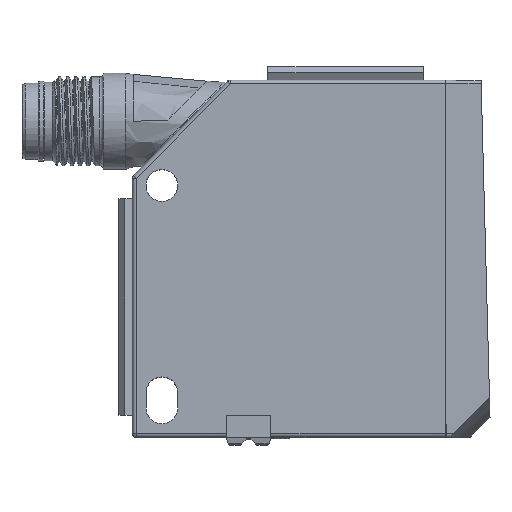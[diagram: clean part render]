
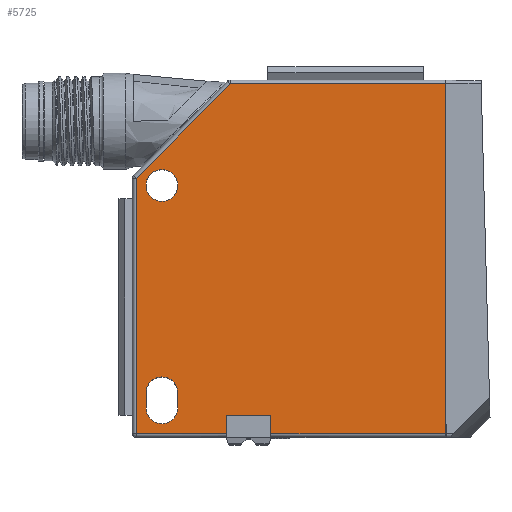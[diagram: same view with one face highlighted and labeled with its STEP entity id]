
A CAD part, top view. The second image highlights one B-rep face of the part: STEP entity #5725.
In plain terms, the highlighted planar face has unit normal (0, 0, 1).
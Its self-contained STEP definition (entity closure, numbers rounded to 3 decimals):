
#4633=CARTESIAN_POINT('',(7.95,34.,23.));
#4634=VERTEX_POINT('',#4633);
#4635=CARTESIAN_POINT('',(5.8,34.,23.));
#4636=DIRECTION('',(0.0,0.0,-1.0));
#4637=DIRECTION('',(-1.0,0.0,0.0));
#4638=AXIS2_PLACEMENT_3D('',#4635,#4636,#4637);
#4639=CIRCLE('',#4638,2.15);
#4640=EDGE_CURVE('',#4634,#4634,#4639,.T.);
#5104=CARTESIAN_POINT('',(15.007,47.7,23.));
#5105=VERTEX_POINT('',#5104);
#5172=CARTESIAN_POINT('',(2.3,34.993,23.));
#5173=VERTEX_POINT('',#5172);
#5236=CARTESIAN_POINT('',(2.3,0.5,23.));
#5237=VERTEX_POINT('',#5236);
#5260=CARTESIAN_POINT('',(14.5,0.5,23.));
#5261=VERTEX_POINT('',#5260);
#5269=CARTESIAN_POINT('',(14.5,0.5,23.));
#5270=DIRECTION('',(-1.0,0.0,0.0));
#5271=VECTOR('',#5270,12.2);
#5272=LINE('',#5269,#5271);
#5273=EDGE_CURVE('',#5261,#5237,#5272,.T.);
#5310=CARTESIAN_POINT('',(2.3,0.5,23.));
#5311=DIRECTION('',(0.0,1.0,0.0));
#5312=VECTOR('',#5311,34.493);
#5313=LINE('',#5310,#5312);
#5314=EDGE_CURVE('',#5237,#5173,#5313,.T.);
#5389=CARTESIAN_POINT('',(2.3,34.993,23.));
#5390=DIRECTION('',(0.707,0.707,0.0));
#5391=VECTOR('',#5390,17.971);
#5392=LINE('',#5389,#5391);
#5393=EDGE_CURVE('',#5173,#5105,#5392,.T.);
#5437=CARTESIAN_POINT('',(44.1,47.7,23.));
#5438=VERTEX_POINT('',#5437);
#5448=CARTESIAN_POINT('',(15.007,47.7,23.));
#5449=DIRECTION('',(1.0,0.0,0.0));
#5450=VECTOR('',#5449,29.093);
#5451=LINE('',#5448,#5450);
#5452=EDGE_CURVE('',#5105,#5438,#5451,.T.);
#5574=CARTESIAN_POINT('',(44.1,0.5,23.));
#5575=VERTEX_POINT('',#5574);
#5589=CARTESIAN_POINT('',(20.5,0.5,23.));
#5590=VERTEX_POINT('',#5589);
#5591=CARTESIAN_POINT('',(44.1,0.5,23.));
#5592=DIRECTION('',(-1.0,0.0,0.0));
#5593=VECTOR('',#5592,23.6);
#5594=LINE('',#5591,#5593);
#5595=EDGE_CURVE('',#5575,#5590,#5594,.T.);
#5638=CARTESIAN_POINT('',(1.8,35.2,23.));
#5639=DIRECTION('',(0.0,0.0,1.0));
#5640=DIRECTION('',(-1.0,0.0,0.0));
#5641=AXIS2_PLACEMENT_3D('',#5638,#5639,#5640);
#5642=PLANE('',#5641);
#5643=ORIENTED_EDGE('',*,*,#5273,.F.);
#5644=CARTESIAN_POINT('',(14.5,3.,23.));
#5645=VERTEX_POINT('',#5644);
#5646=CARTESIAN_POINT('',(14.5,0.5,23.));
#5647=DIRECTION('',(0.0,1.0,0.0));
#5648=VECTOR('',#5647,2.5);
#5649=LINE('',#5646,#5648);
#5650=EDGE_CURVE('',#5261,#5645,#5649,.T.);
#5651=ORIENTED_EDGE('',*,*,#5650,.T.);
#5652=CARTESIAN_POINT('',(20.5,3.,23.));
#5653=VERTEX_POINT('',#5652);
#5654=CARTESIAN_POINT('',(14.5,3.,23.));
#5655=DIRECTION('',(1.0,0.0,0.0));
#5656=VECTOR('',#5655,6.0);
#5657=LINE('',#5654,#5656);
#5658=EDGE_CURVE('',#5645,#5653,#5657,.T.);
#5659=ORIENTED_EDGE('',*,*,#5658,.T.);
#5660=CARTESIAN_POINT('',(20.5,3.,23.));
#5661=DIRECTION('',(0.0,-1.0,0.0));
#5662=VECTOR('',#5661,2.5);
#5663=LINE('',#5660,#5662);
#5664=EDGE_CURVE('',#5653,#5590,#5663,.T.);
#5665=ORIENTED_EDGE('',*,*,#5664,.T.);
#5666=ORIENTED_EDGE('',*,*,#5595,.F.);
#5667=CARTESIAN_POINT('',(44.1,1.187,23.));
#5668=VERTEX_POINT('',#5667);
#5669=CARTESIAN_POINT('',(44.1,1.187,23.));
#5670=DIRECTION('',(0.0,-1.0,0.0));
#5671=VECTOR('',#5670,0.687);
#5672=LINE('',#5669,#5671);
#5673=EDGE_CURVE('',#5668,#5575,#5672,.T.);
#5674=ORIENTED_EDGE('',*,*,#5673,.F.);
#5675=CARTESIAN_POINT('',(44.1,47.7,23.));
#5676=DIRECTION('',(0.0,-1.0,0.0));
#5677=VECTOR('',#5676,46.513);
#5678=LINE('',#5675,#5677);
#5679=EDGE_CURVE('',#5438,#5668,#5678,.T.);
#5680=ORIENTED_EDGE('',*,*,#5679,.F.);
#5681=ORIENTED_EDGE('',*,*,#5452,.F.);
#5682=ORIENTED_EDGE('',*,*,#5393,.F.);
#5683=ORIENTED_EDGE('',*,*,#5314,.F.);
#5684=EDGE_LOOP('',(#5643,#5651,#5659,#5665,#5666,#5674,#5680,#5681,#5682,#5683));
#5685=FACE_OUTER_BOUND('',#5684,.T.);
#5686=CARTESIAN_POINT('',(7.95,6.,23.));
#5687=VERTEX_POINT('',#5686);
#5688=CARTESIAN_POINT('',(7.95,4.,23.));
#5689=VERTEX_POINT('',#5688);
#5690=CARTESIAN_POINT('',(7.95,6.,23.));
#5691=DIRECTION('',(0.0,-1.0,0.0));
#5692=VECTOR('',#5691,2.);
#5693=LINE('',#5690,#5692);
#5694=EDGE_CURVE('',#5687,#5689,#5693,.T.);
#5695=ORIENTED_EDGE('',*,*,#5694,.T.);
#5696=CARTESIAN_POINT('',(3.65,4.,23.));
#5697=VERTEX_POINT('',#5696);
#5698=CARTESIAN_POINT('',(5.8,4.,23.));
#5699=DIRECTION('',(0.0,0.0,-1.0));
#5700=DIRECTION('',(-1.0,0.0,0.0));
#5701=AXIS2_PLACEMENT_3D('',#5698,#5699,#5700);
#5702=CIRCLE('',#5701,2.15);
#5703=EDGE_CURVE('',#5689,#5697,#5702,.T.);
#5704=ORIENTED_EDGE('',*,*,#5703,.T.);
#5705=CARTESIAN_POINT('',(3.65,6.,23.));
#5706=VERTEX_POINT('',#5705);
#5707=CARTESIAN_POINT('',(3.65,4.,23.));
#5708=DIRECTION('',(0.0,1.0,0.0));
#5709=VECTOR('',#5708,2.);
#5710=LINE('',#5707,#5709);
#5711=EDGE_CURVE('',#5697,#5706,#5710,.T.);
#5712=ORIENTED_EDGE('',*,*,#5711,.T.);
#5713=CARTESIAN_POINT('',(5.8,6.,23.));
#5714=DIRECTION('',(0.0,0.0,-1.0));
#5715=DIRECTION('',(-1.0,0.0,0.0));
#5716=AXIS2_PLACEMENT_3D('',#5713,#5714,#5715);
#5717=CIRCLE('',#5716,2.15);
#5718=EDGE_CURVE('',#5706,#5687,#5717,.T.);
#5719=ORIENTED_EDGE('',*,*,#5718,.T.);
#5720=EDGE_LOOP('',(#5695,#5704,#5712,#5719));
#5721=FACE_BOUND('',#5720,.T.);
#5722=ORIENTED_EDGE('',*,*,#4640,.T.);
#5723=EDGE_LOOP('',(#5722));
#5724=FACE_BOUND('',#5723,.T.);
#5725=ADVANCED_FACE('',(#5685,#5721,#5724),#5642,.T.);
